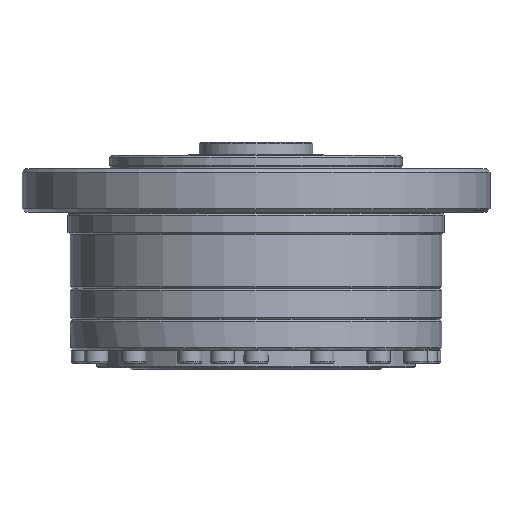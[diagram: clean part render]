
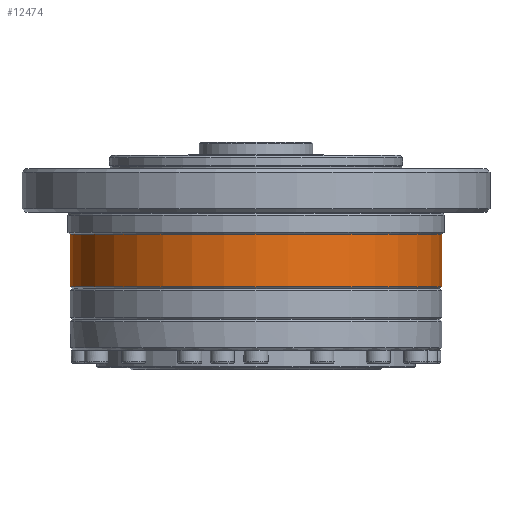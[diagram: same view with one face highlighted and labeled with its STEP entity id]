
A CAD part, front view. The second image highlights one B-rep face of the part: STEP entity #12474.
In plain terms, the highlighted cylindrical face has radius 42.5 mm (diameter 85 mm), a full revolution.
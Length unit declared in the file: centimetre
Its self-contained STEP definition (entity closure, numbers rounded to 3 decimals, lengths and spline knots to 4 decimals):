
#1551=CYLINDRICAL_SURFACE('',#14134,4.25);
#1877=FACE_BOUND('',#4231,.T.);
#3064=FACE_OUTER_BOUND('',#4230,.T.);
#4230=EDGE_LOOP('',(#10819));
#4231=EDGE_LOOP('',(#10820));
#5379=CIRCLE('',#14106,4.25);
#5396=CIRCLE('',#14135,4.25);
#6406=VERTEX_POINT('',#21775);
#6423=VERTEX_POINT('',#21821);
#7926=EDGE_CURVE('',#6406,#6406,#5379,.T.);
#7943=EDGE_CURVE('',#6423,#6423,#5396,.T.);
#10819=ORIENTED_EDGE('',*,*,#7926,.T.);
#10820=ORIENTED_EDGE('',*,*,#7943,.F.);
#12474=ADVANCED_FACE('',(#3064,#1877),#1551,.T.);
#14106=AXIS2_PLACEMENT_3D('',#21776,#17625,#17626);
#14134=AXIS2_PLACEMENT_3D('',#21820,#17681,#17682);
#14135=AXIS2_PLACEMENT_3D('',#21822,#17683,#17684);
#17625=DIRECTION('center_axis',(0.,0.,
-1.));
#17626=DIRECTION('ref_axis',(1.,0.,0.));
#17681=DIRECTION('center_axis',(0.,0.,
-1.));
#17682=DIRECTION('ref_axis',(0.,1.,0.));
#17683=DIRECTION('center_axis',(0.,0.,
-1.));
#17684=DIRECTION('ref_axis',(0.,-1.,0.));
#21775=CARTESIAN_POINT('',(0.,4.25,3.095));
#21776=CARTESIAN_POINT('Origin',(0.,0.,
3.095));
#21820=CARTESIAN_POINT('Origin',(0.,0.,
2.47));
#21821=CARTESIAN_POINT('',(0.,4.25,1.895));
#21822=CARTESIAN_POINT('Origin',(0.,0.,
1.895));
